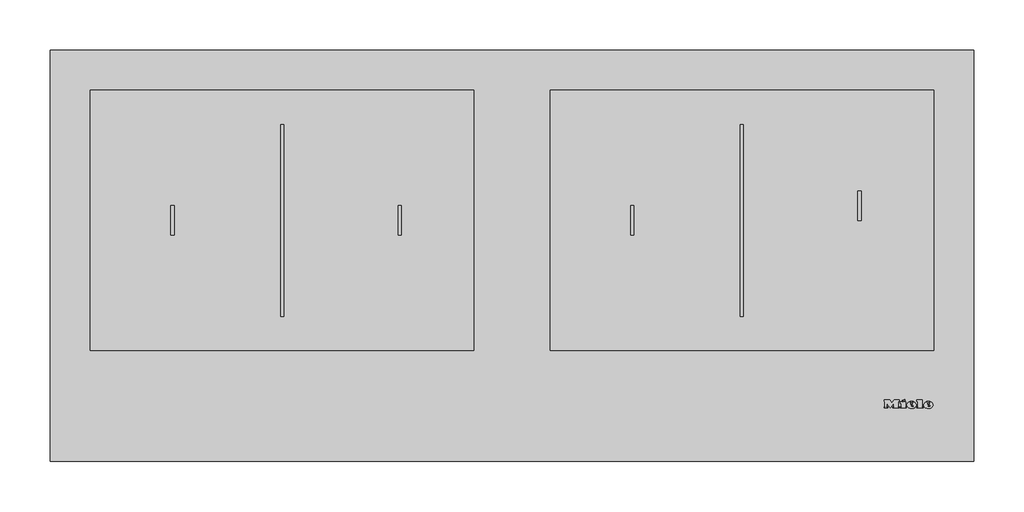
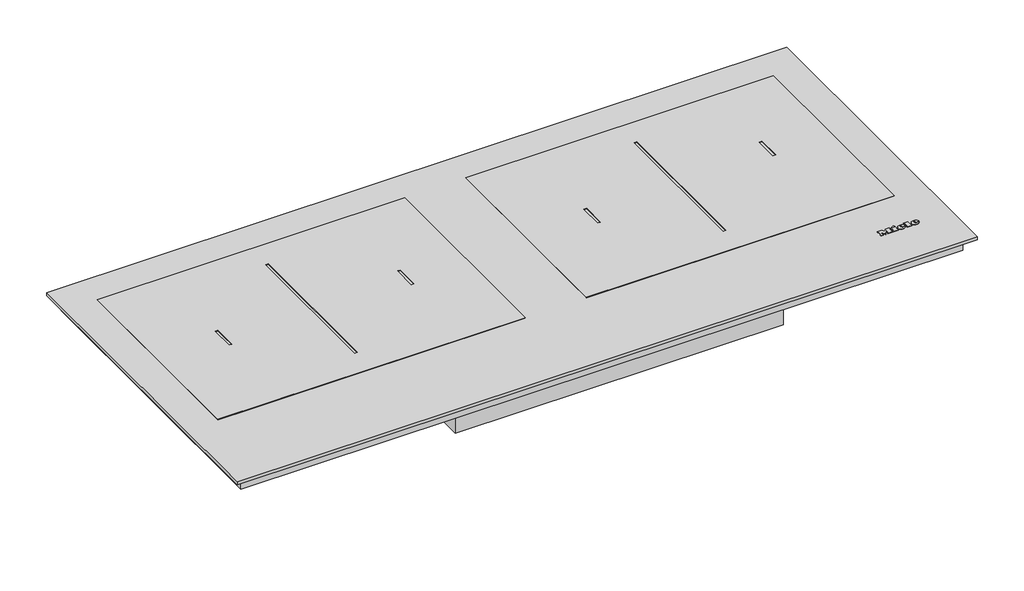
# Not in any storey: 1 proxy.
"""IFC4 building model written with IfcOpenShell, lengths in millimetres."""

import ifcopenshell
import ifcopenshell.guid

model = None  # the IFC model being written
_history = None  # IfcOwnerHistory: only IFC2X3 demands one
_inside = {}  # id of a spatial element -> (the spatial element, [elements in it])
_under = {}  # id of a project, library or spatial element -> (it, [spatial elements below it])
_declared = {}  # id of a project -> (the project, [libraries it declares])
_typed = {}  # id of a type object -> (the type object, [elements of that type])
_made_of = {}  # id of a material, layer set ... -> (it, [elements and type objects made of it])


def new_model(schema):
    """Start an empty IFC model of exactly this schema.

    Asked for "IFC4X3", IfcOpenShell would pick the latest addendum, in which some entities
    have other attributes; the version numbers below select the first issue.
    IFC2X3 requires an IfcOwnerHistory on every rooted entity: one is made here for all.
    """
    global model, _history
    if schema == "IFC4X3":
        model = ifcopenshell.file(schema_version=(4, 3, 0, 0))
    else:
        model = ifcopenshell.file(schema=schema)
    _inside.clear()
    _under.clear()
    _declared.clear()
    _typed.clear()
    _made_of.clear()
    _history = None
    if model.schema == "IFC2X3":
        org = make("IfcOrganization", Name="unknown")
        user = make(
            "IfcPersonAndOrganization",
            ThePerson=make("IfcPerson", FamilyName="unknown"),
            TheOrganization=org,
        )
        app = make(
            "IfcApplication",
            ApplicationDeveloper=org,
            Version="unknown",
            ApplicationFullName="unknown",
            ApplicationIdentifier="unknown",
        )
        _history = make(
            "IfcOwnerHistory",
            OwningUser=user,
            OwningApplication=app,
            ChangeAction="ADDED",
            CreationDate=0,
        )
    return model


def make(cls, **values):
    """One entity of the class cls with the attributes given. An attribute that is None is left unset."""
    return model.create_entity(
        cls, **{name: value for name, value in values.items() if value is not None}
    )


def rooted(cls, **values):
    """An entity with a GlobalId (a new one), such as an element, a storey or a relation."""
    return make(cls, GlobalId=ifcopenshell.guid.new(), OwnerHistory=_history, **values)


def si_unit(unit_type, name, prefix=None):
    """IfcSIUnit, for example si_unit("LENGTHUNIT", "METRE", prefix="MILLI")."""
    return make("IfcSIUnit", UnitType=unit_type, Prefix=prefix, Name=name)


def assignment(units):
    """IfcUnitAssignment: the units of a project."""
    return None if units is None else make("IfcUnitAssignment", Units=units)


def point(xyz):
    """IfcCartesianPoint."""
    return None if xyz is None else make("IfcCartesianPoint", Coordinates=xyz)


def direction(xyz):
    """IfcDirection."""
    return None if xyz is None else make("IfcDirection", DirectionRatios=xyz)


def frame(location, z_axis=None, x_axis=None):
    """IfcAxis2Placement3D, a coordinate frame: its origin and axes. An axis left out is left unset."""
    return make(
        "IfcAxis2Placement3D",
        Location=point(location),
        Axis=direction(z_axis),
        RefDirection=direction(x_axis),
    )


def frame_2d(location, x_axis=None):
    """IfcAxis2Placement2D, a coordinate frame in the plane: its origin and x axis."""
    return make(
        "IfcAxis2Placement2D", Location=point(location), RefDirection=direction(x_axis)
    )


def origin():
    """The frame at (0, 0, 0) with its axes left unset."""
    return frame((0.0, 0.0, 0.0))


def origin_with_axes():
    """The frame at (0, 0, 0) with the z axis (0, 0, 1) and the x axis (1, 0, 0) written out."""
    return frame((0.0, 0.0, 0.0), z_axis=(0.0, 0.0, 1.0), x_axis=(1.0, 0.0, 0.0))


def place(relative_to, where):
    """IfcLocalPlacement: puts the frame where relative to a parent placement (None: the world)."""
    return make(
        "IfcLocalPlacement", PlacementRelTo=relative_to, RelativePlacement=where
    )


def context(
    kind, dimensions, precision=None, world=None, true_north=None, identifier=None
):
    """IfcGeometricRepresentationContext, for example the 3D "Model" context."""
    return make(
        "IfcGeometricRepresentationContext",
        ContextIdentifier=identifier,
        ContextType=kind,
        CoordinateSpaceDimension=dimensions,
        Precision=precision,
        WorldCoordinateSystem=world,
        TrueNorth=true_north,
    )


def project(units=None, contexts=None):
    """IfcProject with its units and contexts."""
    return rooted(
        "IfcProject",
        Name="project",
        RepresentationContexts=contexts,
        UnitsInContext=assignment(units),
    )


def spatial(cls, under=None, at=None, **own):
    """A site, building, storey or space (cls), placed at a placement, below another one or the project."""
    s = rooted(cls, ObjectPlacement=at, **own)
    if under is not None:
        _under.setdefault(under.id(), (under, []))[1].append(s)
    return s


def polyline(points):
    """IfcPolyline through the points."""
    return make("IfcPolyline", Points=[point(p) for p in points])


def circle_curve(where, radius):
    """IfcCircle in the frame where."""
    return make("IfcCircle", Position=where, Radius=radius)


def ellipse_curve(where, semi_axis1, semi_axis2):
    """IfcEllipse in the frame where."""
    return make(
        "IfcEllipse", Position=where, SemiAxis1=semi_axis1, SemiAxis2=semi_axis2
    )


def trimmed(basis, trim1, trim2, sense, master):
    """IfcTrimmedCurve: the piece of a basis curve between two trims."""
    return make(
        "IfcTrimmedCurve",
        BasisCurve=basis,
        Trim1=trim1,
        Trim2=trim2,
        SenseAgreement=sense,
        MasterRepresentation=master,
    )


def segment(curve, same_sense, transition):
    """IfcCompositeCurveSegment."""
    return make(
        "IfcCompositeCurveSegment",
        Transition=transition,
        SameSense=same_sense,
        ParentCurve=curve,
    )


def composite_curve(segments, self_intersect=None):
    """IfcCompositeCurve: segments joined end to end."""
    return make("IfcCompositeCurve", Segments=segments, SelfIntersect=self_intersect)


def outline(outer, holes=None, kind="AREA"):
    """IfcArbitraryClosedProfileDef: a profile drawn as a closed curve; with holes, ...WithVoids."""
    if holes is None:
        return make("IfcArbitraryClosedProfileDef", ProfileType=kind, OuterCurve=outer)
    return make(
        "IfcArbitraryProfileDefWithVoids",
        ProfileType=kind,
        OuterCurve=outer,
        InnerCurves=holes,
    )


def extrude(swept, where, along, depth):
    """IfcExtrudedAreaSolid: the profile swept, set in the frame where, extruded along a direction by depth."""
    return make(
        "IfcExtrudedAreaSolid",
        SweptArea=swept,
        Position=where,
        ExtrudedDirection=direction(along),
        Depth=depth,
    )


def shape(context_of_items, identifier, shape_type, items):
    """IfcShapeRepresentation: the items that make up one representation, for example the "Body"."""
    return make(
        "IfcShapeRepresentation",
        ContextOfItems=context_of_items,
        RepresentationIdentifier=identifier,
        RepresentationType=shape_type,
        Items=items,
    )


def source(mapping_origin, context_of_items, identifier, shape_type, items):
    """IfcRepresentationMap: a shape defined once, which mapped items show again and again."""
    return make(
        "IfcRepresentationMap",
        MappingOrigin=mapping_origin,
        MappedRepresentation=shape(context_of_items, identifier, shape_type, items),
    )


def transform(
    local_origin,
    x_axis=None,
    y_axis=None,
    z_axis=None,
    scale=None,
    scale2=None,
    scale3=None,
    uniform=True,
):
    """IfcCartesianTransformationOperator3D, or its non-uniform kind. x_axis, y_axis, z_axis: its Axis1, 2, 3."""
    if uniform:
        return make(
            "IfcCartesianTransformationOperator3D",
            Axis1=direction(x_axis),
            Axis2=direction(y_axis),
            LocalOrigin=point(local_origin),
            Scale=scale,
            Axis3=direction(z_axis),
        )
    return make(
        "IfcCartesianTransformationOperator3DnonUniform",
        Axis1=direction(x_axis),
        Axis2=direction(y_axis),
        LocalOrigin=point(local_origin),
        Scale=scale,
        Axis3=direction(z_axis),
        Scale2=scale2,
        Scale3=scale3,
    )


def mapped(mapping_source, mapping_target):
    """IfcMappedItem: shows the shape of a source again, moved by a transform."""
    return make(
        "IfcMappedItem", MappingSource=mapping_source, MappingTarget=mapping_target
    )


def made_of(thing, what):
    """Note that an element or type object is made of a material, layer set ...; save() writes the relation."""
    if what is not None:
        _made_of.setdefault(what.id(), (what, []))[1].append(thing)
    return thing


def element(
    cls,
    number,
    at=None,
    inside=None,
    cuts=None,
    type_object=None,
    material=None,
    context=None,
    identifier="Body",
    shape_type=None,
    held_by="IfcProductDefinitionShape",
    body=None,
    shapes=None,
    **own,
):
    """One element of the class cls, such as IfcWall. Its Tag is "e" and its number.

    at: its placement. inside: the storey or other place that contains it. cuts: it is an
    opening in that element (IfcRelVoidsElement). A single representation is given by context,
    identifier, shape_type and body (its items); several are given by shapes. held_by: the class
    of the entity that holds the representations. save() writes the other relations.
    """
    e = rooted(cls, Tag="e%d" % number, ObjectPlacement=at, **own)
    if body is not None:
        shapes = [shape(context, identifier, shape_type, body)]
    if shapes is not None:
        e.Representation = make(held_by, Representations=shapes)
    if inside is not None:
        _inside.setdefault(inside.id(), (inside, []))[1].append(e)
    if cuts is not None:
        rooted(
            "IfcRelVoidsElement", RelatingBuildingElement=cuts, RelatedOpeningElement=e
        )
    if type_object is not None:
        _typed.setdefault(type_object.id(), (type_object, []))[1].append(e)
    return made_of(e, material)


def aggregate(whole, parts):
    """IfcRelAggregates: a whole, such as a stair, and the parts it consists of."""
    return rooted("IfcRelAggregates", RelatingObject=whole, RelatedObjects=parts)


def save(model, path):
    """Write the relations noted so far, then the file.

    IfcRelAggregates (storeys below a building ...), IfcRelContainedInSpatialStructure (elements
    in a storey), IfcRelDefinesByType, IfcRelAssociatesMaterial and IfcRelDeclares: one each for
    every whole, place, type object, material and project.
    """
    for whole, parts in _under.values():
        aggregate(whole, parts)
    for where, things in _inside.values():
        rooted(
            "IfcRelContainedInSpatialStructure",
            RelatedElements=things,
            RelatingStructure=where,
        )
    for kind, things in _typed.values():
        rooted("IfcRelDefinesByType", RelatedObjects=things, RelatingType=kind)
    for what, things in _made_of.values():
        rooted("IfcRelAssociatesMaterial", RelatedObjects=things, RelatingMaterial=what)
    for by, libraries in _declared.values():
        rooted("IfcRelDeclares", RelatingContext=by, RelatedDefinitions=libraries)
    model.write(path)


def plane_surface(at):
    """IfcPlane: the flat surface through the origin of the frame at, square to its z axis."""
    return make("IfcPlane", Position=at)


def cylinder_surface(at, radius):
    """IfcCylindricalSurface: all points at the distance radius from the z axis of the frame at."""
    return make("IfcCylindricalSurface", Position=at, Radius=radius)


def revolved_surface(curve, axis_point, axis_direction):
    """IfcSurfaceOfRevolution: the curve turned about the line through axis_point along axis_direction."""
    return make(
        "IfcSurfaceOfRevolution",
        SweptCurve=make("IfcArbitraryOpenProfileDef", ProfileType="CURVE", Curve=curve),
        AxisPosition=make("IfcAxis1Placement", Location=point(axis_point), Axis=direction(axis_direction)),
    )


def extruded_surface(curve, direction_of_extrusion, depth):
    """IfcSurfaceOfLinearExtrusion: the curve pushed along a direction by depth."""
    return make(
        "IfcSurfaceOfLinearExtrusion",
        SweptCurve=make("IfcArbitraryOpenProfileDef", ProfileType="CURVE", Curve=curve),
        ExtrudedDirection=direction(direction_of_extrusion),
        Depth=depth,
    )


def advanced_brep(points, edges, surfaces, faces):
    """IfcAdvancedBrep: a solid bounded by faces that lie on surfaces and meet in shared edges.

    An edge is (start, end): straight between two places in points (the first is 0);
    or (start, end, curve); or (start, end, curve, False) where it runs against its curve.
    A face is (place in surfaces, loops), or (place, loops, False) where it looks against
    its surface's normal. A loop lists edges by number (the first is 1), with a minus sign
    where the edge is run from its end to its start. The first loop is the outer one.
    """
    corners = [point(p) for p in points]
    vertices = [make("IfcVertexPoint", VertexGeometry=c) for c in corners]
    made = []
    for start, end, *more in edges:
        made.append(
            make(
                "IfcEdgeCurve",
                EdgeStart=vertices[start],
                EdgeEnd=vertices[end],
                EdgeGeometry=more[0] if more else make("IfcPolyline", Points=[corners[start], corners[end]]),
                SameSense=more[1] if len(more) > 1 else True,
            )
        )
    hull = []
    for where, loops, *sense in faces:
        bounds = []
        for j, loop in enumerate(loops):
            ring = [make("IfcOrientedEdge", EdgeElement=made[abs(k) - 1], Orientation=k > 0) for k in loop]
            bounds.append(
                make(
                    "IfcFaceOuterBound" if j == 0 else "IfcFaceBound",
                    Bound=make("IfcEdgeLoop", EdgeList=ring),
                    Orientation=True,
                )
            )
        hull.append(make("IfcAdvancedFace", Bounds=bounds, FaceSurface=surfaces[where], SameSense=sense[0] if sense else True))
    return make("IfcAdvancedBrep", Outer=make("IfcClosedShell", CfsFaces=hull))


def specialty_equipment_644c648f(model_context):
    return source(origin(), model_context, "Body", "SolidModel", [
        advanced_brep(
        [(412.46, 54.6948833, 4.4802537), (412.46, 55.5028828, 4.4811551), (417.812, 55.5028828, 4.4811551), (408.5, 55.5028828, 4.4811551), (410.7, 52.7988845, 4.4781386), (417.676, 54.6948833, 4.4802537), (415.26, 54.6948833, 4.4802537), (413.356, 53.7988838, 4.4792542), (412.46, 56.5268821, 4.4822974), (412.46, 57.3988816, 4.4832701), (413.828, 57.3988816, 4.4832701), (413.828, 56.5268821, 4.4822974), (412.46, 54.6959988, 3.4802543), (413.356, 53.7999994, 3.4792548), (415.26, 54.6959988, 3.4802543), (417.676, 54.6959988, 3.4802543), (410.7, 52.8, 3.4781393), (408.5, 55.5039983, 3.4811557), (417.812, 55.5039983, 3.4811557), (412.46, 55.5039983, 3.4811557), (412.46, 56.5279977, 3.482298), (413.828, 56.5279977, 3.482298), (413.828, 57.3999971, 3.4832707), (412.46, 57.3999971, 3.4832707)],
        [
            (0, 1),
            (1, 2),
            (2, 3, ellipse_curve(frame((413.156, 55.5028828, 4.4811551), z_axis=(0.0, -0.0011155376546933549, 0.9999993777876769), x_axis=(-1.0, 0.0, 0.0)), 4.656, 3.848)),
            (3, 4, circle_curve(frame((411.5960436, 55.7748826, 4.4814585), z_axis=(0.0, -0.0011155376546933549, 0.9999993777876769), x_axis=(0.0, -0.9999993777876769, -0.0011155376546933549)), 3.1079688)),
            (4, 5, circle_curve(frame((413.0627936, 57.8868813, 4.4838145), z_axis=(0.0, -0.0011155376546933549, 0.9999993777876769), x_axis=(0.0, -0.9999993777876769, -0.0011155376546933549)), 5.6098607)),
            (5, 6),
            (6, 7, circle_curve(frame((413.7470588, 55.4388828, 4.4810837), z_axis=(0.0, 0.0011155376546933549, -0.9999993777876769), x_axis=(0.0, -0.9999993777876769, -0.0011155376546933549)), 1.6859795)),
            (7, 0, circle_curve(frame((413.356, 54.6948833, 4.4802537), z_axis=(0.0, 0.0011155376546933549, -0.9999993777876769), x_axis=(0.0, -0.9999993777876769, -0.0011155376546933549)), 0.896)),
            (8, 9),
            (9, 10, circle_curve(frame((413.144, 57.3988816, 4.4832701), z_axis=(0.0, 0.0011155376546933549, -0.9999993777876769), x_axis=(0.0, -0.9999993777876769, -0.0011155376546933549)), 0.684)),
            (10, 11),
            (11, 8),
            (12, 13, circle_curve(frame((413.356, 54.6959988, 3.4802543), z_axis=(0.0, -0.0011155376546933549, 0.9999993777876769), x_axis=(0.0, -0.9999993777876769, -0.0011155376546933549)), 0.896)),
            (13, 14, circle_curve(frame((413.7470588, 55.4399984, 3.4810843), z_axis=(0.0, -0.0011155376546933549, 0.9999993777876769), x_axis=(0.0, -0.9999993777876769, -0.0011155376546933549)), 1.6859795)),
            (14, 15),
            (15, 16, circle_curve(frame((413.0627936, 57.8879968, 3.4838151), z_axis=(0.0, 0.0011155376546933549, -0.9999993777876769), x_axis=(0.0, -0.9999993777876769, -0.0011155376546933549)), 5.6098607)),
            (16, 17, circle_curve(frame((411.5960436, 55.7759981, 3.4814591), z_axis=(0.0, 0.0011155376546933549, -0.9999993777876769), x_axis=(0.0, -0.9999993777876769, -0.0011155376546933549)), 3.1079688)),
            (17, 18, ellipse_curve(frame((413.156, 55.5039983, 3.4811557), z_axis=(0.0, 0.0011155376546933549, -0.9999993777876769), x_axis=(-1.0, 0.0, 0.0)), 4.656, 3.848)),
            (18, 19),
            (19, 12),
            (20, 21),
            (21, 22),
            (22, 23, circle_curve(frame((413.144, 57.3999971, 3.4832707), z_axis=(0.0, -0.0011155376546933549, 0.9999993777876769), x_axis=(0.0, -0.9999993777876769, -0.0011155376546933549)), 0.684)),
            (23, 20),
            (0, 12),
            (19, 1),
            (18, 2),
            (5, 15),
            (14, 6),
            (17, 3),
            (13, 7),
            (16, 4),
            (8, 20),
            (23, 9),
            (22, 10),
            (21, 11),
        ],
        [
            plane_surface(frame((412.46, 55.5028828, 4.4811551), z_axis=(0.0, -0.0011155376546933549, 0.9999993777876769), x_axis=(0.0, 0.9999993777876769, 0.0011155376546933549))),
            plane_surface(frame((412.46, 55.5039983, 3.4811557), z_axis=(0.0, 0.0011155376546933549, -0.9999993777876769), x_axis=(0.0, -0.9999993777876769, -0.0011155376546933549))),
            plane_surface(frame((412.46, 54.6948833, 4.4802537), z_axis=(1.0000000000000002, 0.0, 0.0), x_axis=(0.0, 0.001115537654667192, -0.999999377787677))),
            plane_surface(frame((412.46, 55.5028828, 4.4811551), z_axis=(0.0, -0.999999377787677, -0.001115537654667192), x_axis=(0.0, 0.001115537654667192, -0.999999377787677))),
            plane_surface(frame((417.676, 54.6948833, 4.4802537), z_axis=(0.0, 0.999999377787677, 0.001115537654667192), x_axis=(0.0, 0.001115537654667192, -0.999999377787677))),
            extruded_surface(trimmed(ellipse_curve(frame((413.156, 55.5051139, 2.4811563), z_axis=(0.0, -0.0011155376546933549, 0.9999993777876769), x_axis=(-1.0, 0.0, 0.0)), 4.656, 3.848), [point((417.812, 55.5051139, 2.4811563))], [point((408.5, 55.5051139, 2.4811563))], True, "CARTESIAN"), (0.0, -0.001115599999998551, 0.9999994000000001), 1.00000002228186),
            revolved_surface(polyline([(413.7470588, 53.75401994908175, 3.479203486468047), (413.7470588, 53.75290441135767, 4.4792029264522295)]), (413.7470588, 55.4399984, 3.4810843), (0.0, 0.0011155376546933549, -0.9999993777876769)),
            revolved_surface(polyline([(413.356, 53.79999935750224, 3.4792547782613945), (413.356, 53.79888381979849, 4.479254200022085)]), (413.356, 54.6959988, 3.4802543), (0.0, 0.0011155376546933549, -0.9999993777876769)),
            cylinder_surface(frame((411.5960436, 55.7759981, 3.4814591), z_axis=(0.0, -0.0011155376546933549, 0.9999993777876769), x_axis=(0.0, -0.9999993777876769, -0.0011155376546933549)), 3.1079688),
            cylinder_surface(frame((413.0627936, 57.8879968, 3.4838151), z_axis=(0.0, -0.0011155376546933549, 0.9999993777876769), x_axis=(0.0, -0.9999993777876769, -0.0011155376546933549)), 5.6098607),
            plane_surface(frame((412.46, 56.5268821, 4.4822974), z_axis=(1.0000000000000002, 0.0, 0.0), x_axis=(0.0, 0.001115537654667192, -0.999999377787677))),
            revolved_surface(polyline([(413.144, 56.71599752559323, 3.4825076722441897), (413.144, 56.714881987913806, 4.482507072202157)]), (413.144, 57.3999971, 3.4832707), (0.0, 0.0011155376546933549, -0.9999993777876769)),
            plane_surface(frame((413.828, 57.3988816, 4.4832701), z_axis=(-1.0000000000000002, 0.0, 0.0), x_axis=(0.0, 0.001115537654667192, -0.999999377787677))),
            plane_surface(frame((413.828, 56.5268821, 4.4822974), z_axis=(0.0, 0.999999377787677, 0.001115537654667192), x_axis=(0.0, 0.001115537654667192, -0.999999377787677))),
        ],
        [
            (0, [[1, 2, 3, 4, 5, 6, 7, 8], [9, 10, 11, 12]]),
            (1, [[13, 14, 15, 16, 17, 18, 19, 20], [21, 22, 23, 24]]),
            (2, [[-1, 25, -20, 26]]),
            (3, [[-2, -26, -19, 27]]),
            (4, [[-6, 28, -15, 29]]),
            (5, [[-3, -27, -18, 30]]),
            (6, [[-7, -29, -14, 31]]),
            (7, [[-8, -31, -13, -25]]),
            (8, [[-4, -30, -17, 32]]),
            (9, [[-5, -32, -16, -28]]),
            (10, [[-9, 33, -24, 34]]),
            (11, [[-10, -34, -23, 35]]),
            (12, [[-11, -35, -22, 36]]),
            (13, [[-12, -36, -21, -33]]),
        ],
    ),
        advanced_brep(
        [(395.764, 54.6948833, 4.4802537), (395.764, 55.5028828, 4.4811551), (401.116, 55.5028828, 4.4811551), (391.804, 55.5028828, 4.4811551), (394.004, 52.7988845, 4.4781386), (400.98, 54.6948833, 4.4802537), (398.564, 54.6948833, 4.4802537), (396.66, 53.7988838, 4.4792542), (395.764, 56.5268821, 4.4822974), (395.764, 57.3988816, 4.4832701), (397.132, 57.3988816, 4.4832701), (397.132, 56.5268821, 4.4822974), (395.764, 54.6959988, 3.4802543), (396.66, 53.7999994, 3.4792548), (398.564, 54.6959988, 3.4802543), (400.98, 54.6959988, 3.4802543), (394.004, 52.8, 3.4781393), (391.804, 55.5039983, 3.4811557), (401.116, 55.5039983, 3.4811557), (395.764, 55.5039983, 3.4811557), (395.764, 56.5279977, 3.482298), (397.132, 56.5279977, 3.482298), (397.132, 57.3999971, 3.4832707), (395.764, 57.3999971, 3.4832707)],
        [
            (0, 1),
            (1, 2),
            (2, 3, ellipse_curve(frame((396.46, 55.5028828, 4.4811551), z_axis=(0.0, -0.0011155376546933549, 0.9999993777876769), x_axis=(-1.0, 0.0, 0.0)), 4.656, 3.848)),
            (3, 4, circle_curve(frame((394.9000436, 55.7748826, 4.4814585), z_axis=(0.0, -0.0011155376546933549, 0.9999993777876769), x_axis=(0.0, -0.9999993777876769, -0.0011155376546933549)), 3.1079688)),
            (4, 5, circle_curve(frame((396.3667936, 57.8868813, 4.4838145), z_axis=(0.0, -0.0011155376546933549, 0.9999993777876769), x_axis=(0.0, -0.9999993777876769, -0.0011155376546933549)), 5.6098607)),
            (5, 6),
            (6, 7, circle_curve(frame((397.0510588, 55.4388828, 4.4810837), z_axis=(0.0, 0.0011155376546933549, -0.9999993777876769), x_axis=(0.0, -0.9999993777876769, -0.0011155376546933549)), 1.6859795)),
            (7, 0, circle_curve(frame((396.66, 54.6948833, 4.4802537), z_axis=(0.0, 0.0011155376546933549, -0.9999993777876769), x_axis=(0.0, -0.9999993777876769, -0.0011155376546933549)), 0.896)),
            (8, 9),
            (9, 10, circle_curve(frame((396.448, 57.3988816, 4.4832701), z_axis=(0.0, 0.0011155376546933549, -0.9999993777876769), x_axis=(0.0, -0.9999993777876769, -0.0011155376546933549)), 0.684)),
            (10, 11),
            (11, 8),
            (12, 13, circle_curve(frame((396.66, 54.6959988, 3.4802543), z_axis=(0.0, -0.0011155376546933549, 0.9999993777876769), x_axis=(0.0, -0.9999993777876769, -0.0011155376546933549)), 0.896)),
            (13, 14, circle_curve(frame((397.0510588, 55.4399984, 3.4810843), z_axis=(0.0, -0.0011155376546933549, 0.9999993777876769), x_axis=(0.0, -0.9999993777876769, -0.0011155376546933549)), 1.6859795)),
            (14, 15),
            (15, 16, circle_curve(frame((396.3667936, 57.8879968, 3.4838151), z_axis=(0.0, 0.0011155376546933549, -0.9999993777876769), x_axis=(0.0, -0.9999993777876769, -0.0011155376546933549)), 5.6098607)),
            (16, 17, circle_curve(frame((394.9000436, 55.7759981, 3.4814591), z_axis=(0.0, 0.0011155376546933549, -0.9999993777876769), x_axis=(0.0, -0.9999993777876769, -0.0011155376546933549)), 3.1079688)),
            (17, 18, ellipse_curve(frame((396.46, 55.5039983, 3.4811557), z_axis=(0.0, 0.0011155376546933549, -0.9999993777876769), x_axis=(-1.0, 0.0, 0.0)), 4.656, 3.848)),
            (18, 19),
            (19, 12),
            (20, 21),
            (21, 22),
            (22, 23, circle_curve(frame((396.448, 57.3999971, 3.4832707), z_axis=(0.0, -0.0011155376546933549, 0.9999993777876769), x_axis=(0.0, -0.9999993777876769, -0.0011155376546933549)), 0.684)),
            (23, 20),
            (0, 12),
            (19, 1),
            (18, 2),
            (5, 15),
            (14, 6),
            (17, 3),
            (13, 7),
            (16, 4),
            (8, 20),
            (23, 9),
            (22, 10),
            (21, 11),
        ],
        [
            plane_surface(frame((395.764, 55.5028828, 4.4811551), z_axis=(0.0, -0.0011155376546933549, 0.9999993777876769), x_axis=(0.0, 0.9999993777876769, 0.0011155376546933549))),
            plane_surface(frame((395.764, 55.5039983, 3.4811557), z_axis=(0.0, 0.0011155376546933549, -0.9999993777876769), x_axis=(0.0, -0.9999993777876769, -0.0011155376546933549))),
            plane_surface(frame((395.764, 54.6948833, 4.4802537), z_axis=(1.0000000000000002, 0.0, 0.0), x_axis=(0.0, 0.001115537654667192, -0.999999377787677))),
            plane_surface(frame((395.764, 55.5028828, 4.4811551), z_axis=(0.0, -0.999999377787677, -0.001115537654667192), x_axis=(0.0, 0.001115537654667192, -0.999999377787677))),
            plane_surface(frame((400.98, 54.6948833, 4.4802537), z_axis=(0.0, 0.999999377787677, 0.001115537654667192), x_axis=(0.0, 0.001115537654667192, -0.999999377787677))),
            extruded_surface(trimmed(ellipse_curve(frame((396.46, 55.5051139, 2.4811563), z_axis=(0.0, -0.0011155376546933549, 0.9999993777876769), x_axis=(-1.0, 0.0, 0.0)), 4.656, 3.848), [point((401.116, 55.5051139, 2.4811563))], [point((391.804, 55.5051139, 2.4811563))], True, "CARTESIAN"), (0.0, -0.001115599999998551, 0.9999994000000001), 1.00000002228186),
            revolved_surface(polyline([(397.0510588, 53.75401994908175, 3.479203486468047), (397.0510588, 53.75290441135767, 4.4792029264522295)]), (397.0510588, 55.4399984, 3.4810843), (0.0, 0.0011155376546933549, -0.9999993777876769)),
            revolved_surface(polyline([(396.66, 53.79999935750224, 3.4792547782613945), (396.66, 53.79888381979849, 4.479254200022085)]), (396.66, 54.6959988, 3.4802543), (0.0, 0.0011155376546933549, -0.9999993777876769)),
            cylinder_surface(frame((394.9000436, 55.7759981, 3.4814591), z_axis=(0.0, -0.0011155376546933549, 0.9999993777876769), x_axis=(0.0, -0.9999993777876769, -0.0011155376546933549)), 3.1079688),
            cylinder_surface(frame((396.3667936, 57.8879968, 3.4838151), z_axis=(0.0, -0.0011155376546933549, 0.9999993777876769), x_axis=(0.0, -0.9999993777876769, -0.0011155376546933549)), 5.6098607),
            plane_surface(frame((395.764, 56.5268821, 4.4822974), z_axis=(1.0000000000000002, 0.0, 0.0), x_axis=(0.0, 0.001115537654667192, -0.999999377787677))),
            revolved_surface(polyline([(396.448, 56.71599752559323, 3.4825076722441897), (396.448, 56.714881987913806, 4.482507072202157)]), (396.448, 57.3999971, 3.4832707), (0.0, 0.0011155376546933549, -0.9999993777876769)),
            plane_surface(frame((397.132, 57.3988816, 4.4832701), z_axis=(-1.0000000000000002, 0.0, 0.0), x_axis=(0.0, 0.001115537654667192, -0.999999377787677))),
            plane_surface(frame((397.132, 56.5268821, 4.4822974), z_axis=(0.0, 0.999999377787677, 0.001115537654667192), x_axis=(0.0, 0.001115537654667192, -0.999999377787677))),
        ],
        [
            (0, [[1, 2, 3, 4, 5, 6, 7, 8], [9, 10, 11, 12]]),
            (1, [[13, 14, 15, 16, 17, 18, 19, 20], [21, 22, 23, 24]]),
            (2, [[-1, 25, -20, 26]]),
            (3, [[-2, -26, -19, 27]]),
            (4, [[-6, 28, -15, 29]]),
            (5, [[-3, -27, -18, 30]]),
            (6, [[-7, -29, -14, 31]]),
            (7, [[-8, -31, -13, -25]]),
            (8, [[-4, -30, -17, 32]]),
            (9, [[-5, -32, -16, -28]]),
            (10, [[-9, 33, -24, 34]]),
            (11, [[-10, -34, -23, 35]]),
            (12, [[-11, -35, -22, 36]]),
            (13, [[-12, -36, -21, -33]]),
        ],
    ),
        extrude(outline(polyline([(0.0, 0.0), (-0.0109086, -2.9993294), (-1.4390415, -2.9920868), (-1.4315307, 0.0), (0.0, 0.0)])), frame((387.02, 60.3279953, 3.486537), z_axis=(0.0, -0.001115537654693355, 0.999999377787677), x_axis=(-0.4247202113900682, 0.9053240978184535, 0.0010099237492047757)), (0.0, 0.0, 1.0), 1.0),
        extrude(outline(polyline([(-0.4933908, 2.4141097), (-2.7800844, -2.4601583), (-7.0459741, -0.4588767), (-7.4401145, -1.299018), (-8.6568709, -0.728194), (-5.9760369, 4.9862153), (-4.7592805, 4.4153913), (-5.1636142, 3.5535222), (-2.1941493, 2.1604399), (-1.7898157, 3.022309), (-0.4933908, 2.4141097)])), frame((387.02, 60.3279953, 3.486537), z_axis=(0.0, -0.001115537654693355, 0.999999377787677), x_axis=(-0.4247202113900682, 0.9053240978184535, 0.0010099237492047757)), (0.0, 0.0, 1.0), 1.0),
        extrude(outline(polyline([(0.0, 0.0), (0.0, -1.304), (-5.504, -1.304), (-5.504, 5.3519999), (-6.488, 5.3519999), (-6.488, 6.696), (0.0, 6.696), (0.0, 5.3519999), (-0.96, 5.3519999), (-0.96, 0.0), (0.0, 0.0)])), frame((401.564, 59.4959958, 3.4856089), z_axis=(0.0, -0.0011155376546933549, 0.9999993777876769), x_axis=(-1.0, 0.0, 0.0)), (0.0, 0.0, 1.0), 1.0),
        extrude(outline(polyline([(0.0, 0.0), (0.0, -1.304), (-5.576, -1.304), (-7.92, 1.696), (-10.256, -1.304), (-15.128, -1.304), (-15.128, 0.0), (-14.112, 0.0), (-14.112, 5.3519999), (-15.128, 5.3519999), (-15.128, 6.696), (-8.744, 6.696), (-8.744, 5.3519999), (-9.728, 5.3519999), (-9.728, 1.8807777), (-6.136, 6.696), (-2.56, 1.9488752), (-2.56, 5.3519999), (-3.52, 5.3519999), (-3.52, 6.696), (0.0, 6.696), (0.0, 5.3519999), (-0.968, 5.3519999), (-0.968, 0.0), (0.0, 0.0)])), frame((369.1, 59.4959958, 3.4856089), z_axis=(0.0, -0.0011155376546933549, 0.9999993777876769), x_axis=(-1.0, 0.0, 0.0)), (0.0, 0.0, 1.0), 1.0),
        extrude(outline(polyline([(169.5772603, 358.0), (162.2, 358.0), (162.2, 359.2557039), (168.3215564, 359.2557039), (168.3215564, 362.5519266), (162.670889, 362.5519266), (162.670889, 363.8076304), (168.3215564, 363.8076304), (168.3215564, 366.7899271), (162.356963, 366.7899271), (162.356963, 368.045631), (169.5772603, 368.045631), (169.5772603, 358.0)])), frame((0.0, 0.0, -77.5), z_axis=(0.0, 0.0, 1.0), x_axis=(1.0, 0.0, 0.0)), (0.0, 0.0, 1.0), 1.0),
        extrude(outline(polyline([(160.3164442, 358.0), (154.0379248, 358.0), (154.0379248, 359.2557039), (159.0607403, 359.2557039), (159.0607403, 368.045631), (160.3164442, 368.045631), (160.3164442, 358.0)])), frame((0.0, 0.0, -77.5), z_axis=(0.0, 0.0, 1.0), x_axis=(1.0, 0.0, 0.0)), (0.0, 0.0, 1.0), 1.0),
        extrude(outline(polyline([(458.0, 408.0), (458.0, 0.0), (-458.0, 0.0), (-458.0, 408.0), (458.0, 408.0)])), origin_with_axes(), (0.0, 0.0, 1.0), 4.0),
        extrude(outline(polyline([(446.5, 396.5), (446.5, 11.5), (-446.5, 11.5), (-446.5, 396.5), (446.5, 396.5)])), frame((0.0, 0.0, -16.8), z_axis=(0.0, 0.0, 1.0), x_axis=(1.0, 0.0, 0.0)), (0.0, 0.0, 1.0), 16.8),
        extrude(outline(polyline([(-174.5, 261.2), (-195.9, 261.2), (-195.9, 344.6), (-174.5, 344.6), (-174.5, 394.8), (231.5, 394.8), (231.5, 23.8), (-174.5, 23.8), (-174.5, 261.2)])), frame((0.0, 0.0, -46.5), z_axis=(0.0, 0.0, 1.0), x_axis=(1.0, 0.0, 0.0)), (0.0, 0.0, 1.0), 29.7),
        extrude(outline(composite_curve([segment(trimmed(circle_curve(frame_2d((162.2, 363.0)), 7.5), [point((162.2, 370.5))], [point((162.2, 355.5))], False, "CARTESIAN"), True, "CONTINUOUS"), segment(trimmed(circle_curve(frame_2d((162.2, 363.0)), 7.5), [point((162.2, 355.5))], [point((162.2, 370.5))], False, "CARTESIAN"), True, "CONTINUOUS")], self_intersect=False)), frame((0.0, 0.0, -76.5), z_axis=(0.0, 0.0, 1.0), x_axis=(1.0, 0.0, 0.0)), (0.0, 0.0, 1.0), 30.0),
        extrude(outline(polyline([(418.25, 368.25), (418.25, 109.75), (37.75, 109.75), (37.75, 368.25), (418.25, 368.25)]), holes=[polyline([(226.4, 334.3), (226.4, 143.7), (229.6, 143.7), (229.6, 334.3), (226.4, 334.3)]), polyline([(120.85, 253.65), (117.65, 253.65), (117.65, 224.35), (120.85, 224.35), (120.85, 253.65)]), polyline([(346.35, 268.3), (343.15, 268.3), (343.15, 239.0), (346.35, 239.0), (346.35, 268.3)])]), frame((0.0, 0.0, 4.0), z_axis=(0.0, 0.0, 1.0), x_axis=(1.0, 0.0, 0.0)), (0.0, 0.0, 1.0), 1.0),
        extrude(outline(polyline([(-37.75, 368.25), (-37.75, 109.75), (-418.25, 109.75), (-418.25, 368.25), (-37.75, 368.25)]), holes=[polyline([(-226.4, 334.3), (-229.6, 334.3), (-229.6, 143.7), (-226.4, 143.7), (-226.4, 334.3)]), polyline([(-335.15, 253.65), (-338.35, 253.65), (-338.35, 224.35), (-335.15, 224.35), (-335.15, 253.65)]), polyline([(-109.65, 253.65), (-112.85, 253.65), (-112.85, 224.35), (-109.65, 224.35), (-109.65, 253.65)])]), frame((0.0, 0.0, 4.0), z_axis=(0.0, 0.0, 1.0), x_axis=(1.0, 0.0, 0.0)), (0.0, 0.0, 1.0), 1.0),
        extrude(outline(composite_curve([segment(trimmed(circle_curve(frame_2d((-439.0, 76.0)), 3.0), [point((-439.0, 79.0))], [point((-439.0, 73.0))], False, "CARTESIAN"), True, "CONTINUOUS"), segment(trimmed(circle_curve(frame_2d((-439.0, 76.0)), 3.0), [point((-439.0, 73.0))], [point((-439.0, 79.0))], False, "CARTESIAN"), True, "CONTINUOUS")], self_intersect=False)), frame((0.0, 0.0, -22.0), z_axis=(0.0, 0.0, 1.0), x_axis=(1.0, 0.0, 0.0)), (0.0, 0.0, 1.0), 5.2),
        extrude(outline(composite_curve([segment(trimmed(circle_curve(frame_2d((439.0, 332.0)), 3.0), [point((439.0, 335.0))], [point((439.0, 329.0))], False, "CARTESIAN"), True, "CONTINUOUS"), segment(trimmed(circle_curve(frame_2d((439.0, 332.0)), 3.0), [point((439.0, 329.0))], [point((439.0, 335.0))], False, "CARTESIAN"), True, "CONTINUOUS")], self_intersect=False)), frame((0.0, 0.0, -22.0), z_axis=(0.0, 0.0, 1.0), x_axis=(1.0, 0.0, 0.0)), (0.0, 0.0, 1.0), 5.2),
    ])


model = new_model("IFC4")

# Units and contexts
model_context = context("Model", 3, world=origin())
ifc_project = project(units=[si_unit("LENGTHUNIT", "METRE", prefix="MILLI")], contexts=[model_context])

# Site, building
site = spatial("IfcSite", under=ifc_project)
building = spatial("IfcBuilding", under=site)

# Proxy
placement = place(None, origin())
specialty_equipment_shape = specialty_equipment_644c648f(model_context)
element("IfcBuildingElementProxy", 1, Name="12546810_HK_KM7684-1FL : 26768475_HK_12546810_KM7684-1FL", ObjectType="12546810_HK_KM7684-1FL : 26768475_HK_12546810_KM7684-1FL", at=placement, inside=building, context=model_context, shape_type="MappedRepresentation", body=[
    mapped(specialty_equipment_shape, transform((0.0, 0.0, 0.0), x_axis=(1.0, 0.0, 0.0), y_axis=(0.0, 1.0, 0.0), z_axis=(0.0, 0.0, 1.0))),
])

save(model, "model.ifc")
